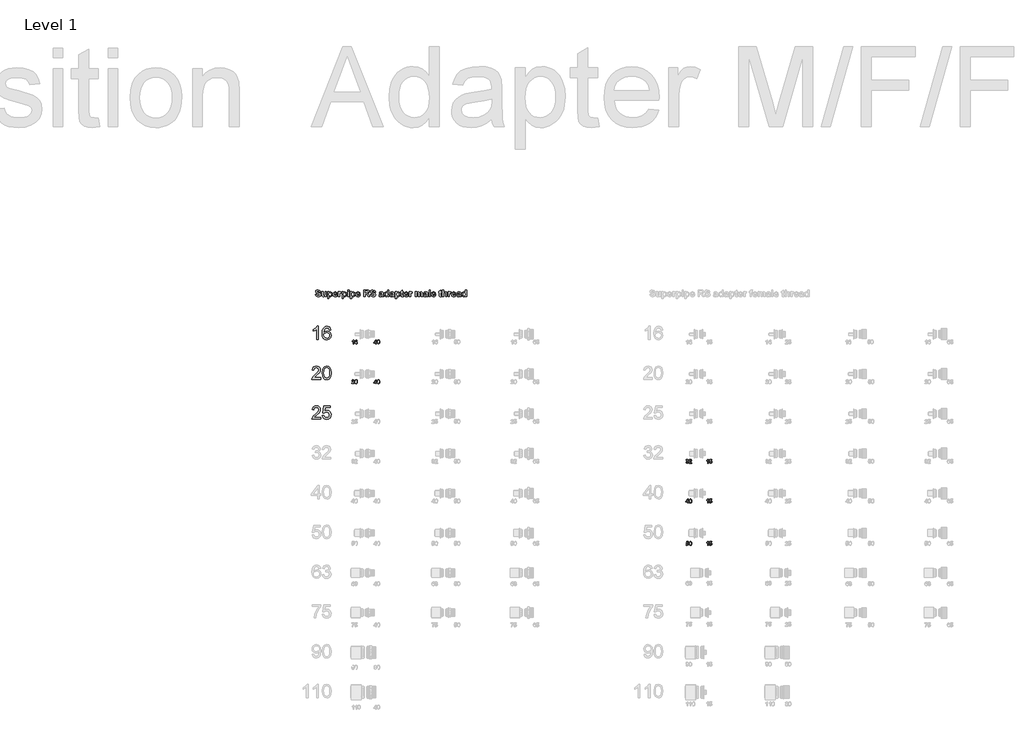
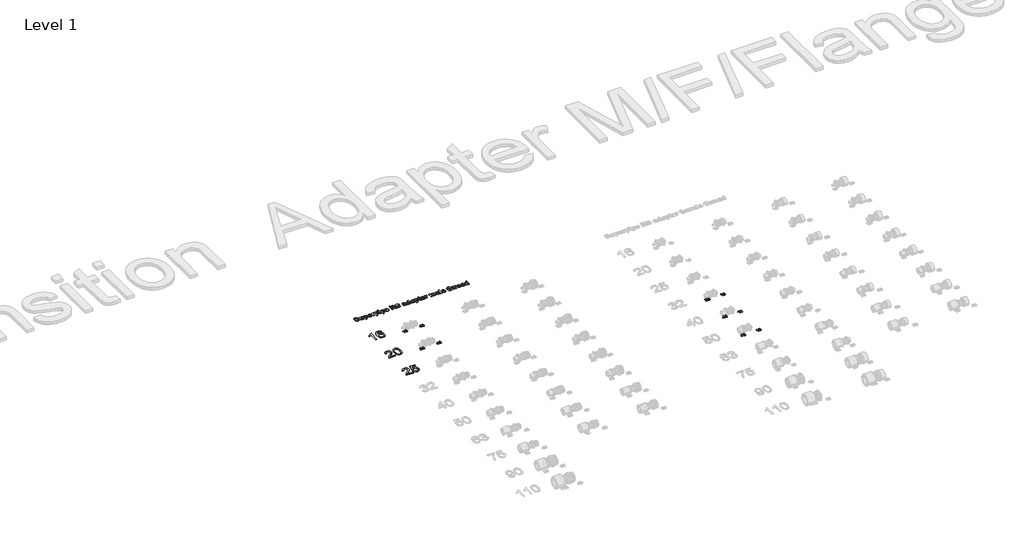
# One storey, part 36 of 58: 14 proxies.
"""IFC4 building model written with IfcOpenShell, lengths in millimetres."""

from ifc_helpers import new_model, si_unit, frame, origin, place, context, project, spatial, polyline, outline, extrude, element, save

model = new_model("IFC4")

# Units and contexts
model_context = context("Model", 3, world=origin())
ifc_project = project(units=[si_unit("LENGTHUNIT", "METRE", prefix="MILLI")], contexts=[model_context])

# Site, building, storey
site = spatial("IfcSite", under=ifc_project)
building = spatial("IfcBuilding", under=site)
storey = spatial("IfcBuildingStorey", under=building, Name="Level 1", Elevation=27.3876384)

# Proxies
placement = place(None, origin())
element("IfcBuildingElementProxy", 1, Name="100mm Arial", ObjectType="100mm Arial", at=placement, inside=storey, context=model_context, shape_type="SweptSolid", body=[
    extrude(outline(polyline([(28831.5703727, 18606.196048), (28819.0133339, 18606.196048), (28819.0133339, 18684.4813365), (28807.1184827, 18676.0077879), (28793.8992564, 18669.6679549), (28793.8992564, 18681.5382806), (28812.3056189, 18693.285979), (28823.4769688, 18706.6523581), (28831.5703727, 18706.6523581), (28831.5703727, 18606.196048)])), frame((0.0, 0.0, 27.3876384), z_axis=(0.0, 0.0, 1.0), x_axis=(1.0, 0.0, 0.0)), (0.0, 0.0, 1.0), 2.0),
    extrude(outline(polyline([(28925.7481635, 18679.9686507), (28913.1911247, 18678.3990209), (28908.4331842, 18688.871395), (28895.85162, 18694.0953193), (28884.5208545, 18691.0541615), (28875.949204, 18679.6375569), (28872.3807487, 18657.2580689), (28883.4539967, 18667.2767219), (28897.1759952, 18670.5508717), (28908.7765407, 18668.3129229), (28918.5131509, 18661.5990764), (28925.1166327, 18651.3413001), (28927.3177933, 18638.4715617), (28923.1729895, 18621.1443197), (28911.7686476, 18608.8815865), (28895.3120597, 18604.6264181), (28881.0658295, 18607.4468468), (28869.7197356, 18615.9081326), (28862.2977163, 18630.8441416), (28859.8237099, 18653.0887396), (28862.5705621, 18678.0985839), (28870.8111188, 18695.1989653), (28882.0621765, 18703.7890099), (28896.6364349, 18706.6523581), (28907.6545007, 18704.8803932), (28916.4775372, 18699.5644983), (28922.6579547, 18691.1216066), (28925.7481635, 18679.9686507)]), holes=[polyline([(28872.3807487, 18638.6677654), (28875.2870164, 18627.7907211), (28883.0125383, 18619.8935209), (28894.3310411, 18617.1834569), (28902.617583, 18618.5875398), (28909.13216, 18622.7997887), (28913.3536059, 18629.4216646), (28914.7607545, 18638.0546288), (28913.372, 18646.3411707), (28909.2057364, 18652.659544), (28902.5807948, 18656.6602607), (28893.8160063, 18657.9938329), (28878.6224799, 18652.659544), (28873.9411815, 18646.4944549), (28872.3807487, 18638.6677654)])]), frame((0.0, 0.0, 27.3876384), z_axis=(0.0, 0.0, 1.0), x_axis=(1.0, 0.0, 0.0)), (0.0, 0.0, 1.0), 2.0),
])
element("IfcBuildingElementProxy", 2, Name="100mm Arial", ObjectType="100mm Arial", at=placement, inside=storey, context=model_context, shape_type="SweptSolid", body=[
    extrude(outline(polyline([(28848.836301, 18318.7530867), (28848.836301, 18306.196048), (28782.9118475, 18306.196048), (28784.2607481, 18314.8535376), (28791.8881681, 18328.1831285), (28807.6089921, 18342.7389928), (28829.2895043, 18363.6592156), (28834.7096324, 18377.8839861), (28829.5960726, 18389.3986925), (28816.2419562, 18394.0953193), (28802.3237541, 18389.5090571), (28797.0385161, 18376.829391), (28784.4814773, 18378.3990209), (28787.5257008, 18390.5452581), (28794.1077228, 18399.4173455), (28803.8841869, 18404.843605), (28816.5117363, 18406.6523581), (28829.2312563, 18404.6412699), (28838.9893263, 18398.6080052), (28845.1973349, 18389.5948963), (28847.2666711, 18378.6442756), (28845.0348537, 18366.7371616), (28837.6159001, 18354.4253775), (28819.6264706, 18337.2207629), (28805.1809709, 18325.1419707), (28799.5155882, 18318.7530867), (28848.836301, 18318.7530867)])), frame((0.0, 0.0, 27.3876384), z_axis=(0.0, 0.0, 1.0), x_axis=(1.0, 0.0, 0.0)), (0.0, 0.0, 1.0), 2.0),
    extrude(outline(polyline([(28861.3933398, 18355.6148627), (28865.0844224, 18384.5181247), (28876.0473059, 18401.1831791), (28894.3555665, 18406.6523581), (28909.0217954, 18403.4149966), (28919.150813, 18394.0830566), (28925.0369249, 18379.220624), (28927.3177933, 18355.6148627), (28923.6634988, 18326.8342279), (28912.7374036, 18310.1323853), (28904.5060439, 18306.0029099), (28894.3555665, 18304.6264181), (28881.3080184, 18307.0176511), (28871.39973, 18314.19135), (28863.8949373, 18331.1813668), (28861.3933398, 18355.6148627)]), holes=[polyline([(28873.9503785, 18355.6393881), (28875.4219065, 18335.8871907), (28879.8364905, 18324.4552577), (28886.4093154, 18319.0014071), (28894.3555665, 18317.1834569), (28902.3018176, 18319.0075385), (28908.8746426, 18324.4797831), (28913.2892265, 18335.9178475), (28914.7607545, 18355.6393881), (28913.3382775, 18374.9470615), (28909.0708463, 18386.4678993), (28902.5102841, 18392.1884643), (28894.2084137, 18394.0953193), (28886.3480018, 18392.4153249), (28880.0326942, 18387.3753416), (28875.4709574, 18375.1371339), (28873.9503785, 18355.6393881)])]), frame((0.0, 0.0, 27.3876384), z_axis=(0.0, 0.0, 1.0), x_axis=(1.0, 0.0, 0.0)), (0.0, 0.0, 1.0), 2.0),
])
element("IfcBuildingElementProxy", 3, Name="100mm Arial", ObjectType="100mm Arial", at=placement, inside=storey, context=model_context, shape_type="SweptSolid", body=[
    extrude(outline(polyline([(28848.836301, 18018.7530867), (28848.836301, 18006.196048), (28782.9118475, 18006.196048), (28784.2607481, 18014.8535376), (28791.8881681, 18028.1831285), (28807.6089921, 18042.7389928), (28829.2895043, 18063.6592156), (28834.7096324, 18077.8839861), (28829.5960726, 18089.3986925), (28816.2419562, 18094.0953193), (28802.3237541, 18089.5090571), (28797.0385161, 18076.829391), (28784.4814773, 18078.3990209), (28787.5257008, 18090.5452581), (28794.1077228, 18099.4173455), (28803.8841869, 18104.843605), (28816.5117363, 18106.6523581), (28829.2312563, 18104.6412699), (28838.9893263, 18098.6080052), (28845.1973349, 18089.5948963), (28847.2666711, 18078.6442756), (28845.0348537, 18066.7371616), (28837.6159001, 18054.4253775), (28819.6264706, 18037.2207629), (28805.1809709, 18025.1419707), (28799.5155882, 18018.7530867), (28848.836301, 18018.7530867)])), frame((0.0, 0.0, 27.3876384), z_axis=(0.0, 0.0, 1.0), x_axis=(1.0, 0.0, 0.0)), (0.0, 0.0, 1.0), 2.0),
    extrude(outline(polyline([(28861.3933398, 18032.8797554), (28873.9503785, 18034.4493852), (28880.2779488, 18021.5122017), (28893.3990733, 18017.1834569), (28902.3999195, 18018.6887074), (28909.1444227, 18023.2044589), (28913.3566716, 18030.2095452), (28914.7607545, 18039.1828002), (28909.500042, 18054.0942837), (28902.8934945, 18058.196168), (28893.5952771, 18059.5634627), (28882.57108, 18057.3806962), (28875.5200084, 18051.7153135), (28862.9629696, 18053.2849434), (28873.9503785, 18105.0827283), (28922.6089038, 18105.0827283), (28922.6089038, 18092.5256895), (28884.1039216, 18092.5256895), (28878.7328445, 18064.8609635), (28887.7030338, 18070.305617), (28897.1024188, 18072.1205015), (28908.8347887, 18069.87029), (28918.5744645, 18063.1196554), (28925.1319611, 18052.8312222), (28927.3177933, 18039.9676151), (28925.3496246, 18027.4105764), (28919.4451186, 18016.6684221), (28908.1388786, 18007.6369191), (28893.3500224, 18004.6264181), (28881.0167785, 18006.5608643), (28871.1912636, 18012.3642028), (28864.4559574, 18021.3619832), (28861.3933398, 18032.8797554)])), frame((0.0, 0.0, 27.3876384), z_axis=(0.0, 0.0, 1.0), x_axis=(1.0, 0.0, 0.0)), (0.0, 0.0, 1.0), 2.0),
])
element("IfcBuildingElementProxy", 4, Name="30mm Arial", ObjectType="30mm Arial", at=placement, inside=storey, context=model_context, shape_type="SweptSolid", body=[
    extrude(outline(polyline([(29101.8418771, 18277.3459656), (29101.8418771, 18273.5788539), (29082.0645411, 18273.5788539), (29082.4692113, 18276.1761008), (29084.7574373, 18280.1749781), (29089.4736845, 18284.5417374), (29095.9778381, 18290.8178042), (29097.6038765, 18295.0852354), (29096.0698086, 18298.5396473), (29092.0635737, 18299.9486353), (29087.8881131, 18298.5727567), (29086.3025417, 18294.7688569), (29082.53543, 18295.2397458), (29085.4233037, 18301.5452432), (29092.1445077, 18303.715747), (29098.8877847, 18301.3024411), (29101.3709882, 18295.3133222), (29100.7014429, 18291.741188), (29098.4757569, 18288.0476528), (29093.078928, 18282.8862684), (29088.7452781, 18279.2626308), (29087.0456633, 18277.3459656), (29101.8418771, 18277.3459656)])), frame((0.0, 0.0, 27.3876384), z_axis=(0.0, 0.0, 1.0), x_axis=(1.0, 0.0, 0.0)), (0.0, 0.0, 1.0), 2.0),
    extrude(outline(polyline([(29105.6089888, 18288.4044983), (29106.7163136, 18297.075477), (29110.0051786, 18302.0749933), (29115.4976568, 18303.715747), (29119.8975255, 18302.7445385), (29122.9362307, 18299.9449565), (29124.7020643, 18295.4862267), (29125.3863248, 18288.4044983), (29124.2900365, 18279.7703079), (29121.0122079, 18274.7597551), (29115.4976568, 18273.107965), (29108.6109058, 18275.9774445), (29105.6089888, 18288.4044983)]), holes=[polyline([(29109.3761004, 18288.411856), (29111.141934, 18279.0566168), (29115.4976568, 18276.8750766), (29119.8533796, 18279.0639745), (29121.6192132, 18288.411856), (29119.9122407, 18297.6604093), (29115.453511, 18299.9486353), (29111.2007951, 18297.932642), (29109.3761004, 18288.411856)])]), frame((0.0, 0.0, 27.3876384), z_axis=(0.0, 0.0, 1.0), x_axis=(1.0, 0.0, 0.0)), (0.0, 0.0, 1.0), 2.0),
])
element("IfcBuildingElementProxy", 5, Name="30mm Arial", ObjectType="30mm Arial", at=placement, inside=storey, context=model_context, shape_type="SweptSolid", body=[
    extrude(outline(polyline([(29263.5285428, 18273.5788539), (29263.5285428, 18280.6421882), (29249.8727632, 18280.6421882), (29249.8727632, 18284.4092999), (29264.4703207, 18303.244858), (29267.2956545, 18303.244858), (29267.2956545, 18284.4092999), (29271.0627661, 18284.4092999), (29271.0627661, 18280.6421882), (29267.2956545, 18280.6421882), (29267.2956545, 18273.5788539), (29263.5285428, 18273.5788539)]), holes=[polyline([(29263.5285428, 18284.4092999), (29263.5285428, 18296.0490862), (29254.5080763, 18284.4092999), (29263.5285428, 18284.4092999)])]), frame((0.0, 0.0, 27.3876384), z_axis=(0.0, 0.0, 1.0), x_axis=(1.0, 0.0, 0.0)), (0.0, 0.0, 1.0), 2.0),
    extrude(outline(polyline([(29274.3589888, 18288.4044983), (29275.4663136, 18297.075477), (29278.7551786, 18302.0749933), (29284.2476568, 18303.715747), (29288.6475255, 18302.7445385), (29291.6862307, 18299.9449565), (29293.4520643, 18295.4862267), (29294.1363248, 18288.4044983), (29293.0400365, 18279.7703079), (29289.7622079, 18274.7597551), (29284.2476568, 18273.107965), (29277.3609058, 18275.9774445), (29274.3589888, 18288.4044983)]), holes=[polyline([(29278.1261004, 18288.411856), (29279.891934, 18279.0566168), (29284.2476568, 18276.8750766), (29288.6033796, 18279.0639745), (29290.3692132, 18288.411856), (29288.6622407, 18297.6604093), (29284.203511, 18299.9486353), (29279.9507951, 18297.932642), (29278.1261004, 18288.411856)])]), frame((0.0, 0.0, 27.3876384), z_axis=(0.0, 0.0, 1.0), x_axis=(1.0, 0.0, 0.0)), (0.0, 0.0, 1.0), 2.0),
])
element("IfcBuildingElementProxy", 6, Name="30mm Arial", ObjectType="30mm Arial", at=placement, inside=storey, context=model_context, shape_type="SweptSolid", body=[
    extrude(outline(polyline([(29096.6620986, 18573.5788539), (29092.894987, 18573.5788539), (29092.894987, 18597.0644405), (29089.3265317, 18594.5223759), (29085.3607637, 18592.620426), (29085.3607637, 18596.1815237), (29090.8826725, 18599.7058332), (29094.2340775, 18603.715747), (29096.6620986, 18603.715747), (29096.6620986, 18573.5788539)])), frame((0.0, 0.0, 27.3876384), z_axis=(0.0, 0.0, 1.0), x_axis=(1.0, 0.0, 0.0)), (0.0, 0.0, 1.0), 2.0),
    extrude(outline(polyline([(29124.9154359, 18595.7106348), (29121.1483242, 18595.2397458), (29119.7209421, 18598.381458), (29115.9464728, 18599.9486353), (29112.5472432, 18599.036288), (29109.975748, 18595.6113066), (29108.9052114, 18588.8974602), (29112.2271859, 18591.9030561), (29116.3437854, 18592.885301), (29122.7449321, 18590.1997625), (29125.3863248, 18583.261508), (29124.1428837, 18578.0633355), (29120.7215811, 18574.3845155), (29115.7846047, 18573.107965), (29108.1069075, 18576.4924793), (29105.1380998, 18587.6466614), (29108.4343225, 18600.2797291), (29116.1819173, 18603.715747), (29122.134248, 18601.589389), (29124.9154359, 18595.7106348)]), holes=[polyline([(29108.9052114, 18583.3203692), (29109.7770918, 18580.0572559), (29112.0947483, 18577.6880958), (29115.4902992, 18576.8750766), (29119.9306348, 18578.5599761), (29121.6192132, 18583.1364282), (29119.9527078, 18587.5179027), (29115.3357887, 18589.1181894), (29110.7777308, 18587.5179027), (29108.9052114, 18583.3203692)])]), frame((0.0, 0.0, 27.3876384), z_axis=(0.0, 0.0, 1.0), x_axis=(1.0, 0.0, 0.0)), (0.0, 0.0, 1.0), 2.0),
])
element("IfcBuildingElementProxy", 7, Name="30mm Arial", ObjectType="30mm Arial", at=placement, inside=storey, context=model_context, shape_type="SweptSolid", body=[
    extrude(outline(polyline([(29263.5285428, 18573.5788539), (29263.5285428, 18580.6421882), (29249.8727632, 18580.6421882), (29249.8727632, 18584.4092999), (29264.4703207, 18603.244858), (29267.2956545, 18603.244858), (29267.2956545, 18584.4092999), (29271.0627661, 18584.4092999), (29271.0627661, 18580.6421882), (29267.2956545, 18580.6421882), (29267.2956545, 18573.5788539), (29263.5285428, 18573.5788539)]), holes=[polyline([(29263.5285428, 18584.4092999), (29263.5285428, 18596.0490862), (29254.5080763, 18584.4092999), (29263.5285428, 18584.4092999)])]), frame((0.0, 0.0, 27.3876384), z_axis=(0.0, 0.0, 1.0), x_axis=(1.0, 0.0, 0.0)), (0.0, 0.0, 1.0), 2.0),
    extrude(outline(polyline([(29274.3589888, 18588.4044983), (29275.4663136, 18597.075477), (29278.7551786, 18602.0749933), (29284.2476568, 18603.715747), (29288.6475255, 18602.7445385), (29291.6862307, 18599.9449565), (29293.4520643, 18595.4862267), (29294.1363248, 18588.4044983), (29293.0400365, 18579.7703079), (29289.7622079, 18574.7597551), (29284.2476568, 18573.107965), (29277.3609058, 18575.9774445), (29274.3589888, 18588.4044983)]), holes=[polyline([(29278.1261004, 18588.411856), (29279.891934, 18579.0566168), (29284.2476568, 18576.8750766), (29288.6033796, 18579.0639745), (29290.3692132, 18588.411856), (29288.6622407, 18597.6604093), (29284.203511, 18599.9486353), (29279.9507951, 18597.932642), (29278.1261004, 18588.411856)])]), frame((0.0, 0.0, 27.3876384), z_axis=(0.0, 0.0, 1.0), x_axis=(1.0, 0.0, 0.0)), (0.0, 0.0, 1.0), 2.0),
])
element("IfcBuildingElementProxy", 8, Name="30mm Arial", ObjectType="30mm Arial", at=placement, inside=storey, context=model_context, shape_type="SweptSolid", body=[
    extrude(outline(polyline([(31602.53543, 17681.5839661), (31606.3025417, 17682.0548551), (31608.3810749, 17678.0890872), (31612.2695876, 17676.8750766), (31616.8460396, 17678.5452609), (31618.5456545, 17682.6802545), (31616.8607549, 17686.5761248), (31612.5786085, 17688.1175504), (31609.9372158, 17687.7055225), (31610.3566012, 17691.4726342), (31615.2347165, 17692.5100614), (31617.1329876, 17695.8357146), (31615.7571089, 17698.7824494), (31612.2107265, 17699.9486353), (31608.6201982, 17698.771413), (31606.7734306, 17695.2397458), (31603.006319, 17695.7106348), (31606.0891701, 17701.6188196), (31612.078289, 17703.715747), (31616.6216316, 17702.6819986), (31619.8001321, 17699.8566648), (31620.9000992, 17696.0564438), (31619.8553144, 17692.5836378), (31616.7651056, 17690.0893979), (31620.8706687, 17687.5142239), (31622.3127661, 17682.6140357), (31619.4285712, 17675.8744376), (31612.1371501, 17673.107965), (31605.5299895, 17675.4697674), (31602.53543, 17681.5839661)])), frame((0.0, 0.0, 27.3876384), z_axis=(0.0, 0.0, 1.0), x_axis=(1.0, 0.0, 0.0)), (0.0, 0.0, 1.0), 2.0),
    extrude(outline(polyline([(31644.9154359, 17677.3459656), (31644.9154359, 17673.5788539), (31625.1380998, 17673.5788539), (31625.54277, 17676.1761008), (31627.830996, 17680.1749781), (31632.5472432, 17684.5417374), (31639.0513969, 17690.8178042), (31640.6774353, 17695.0852354), (31639.1433674, 17698.5396473), (31635.1371324, 17699.9486353), (31630.9616718, 17698.5727567), (31629.3761004, 17694.7688569), (31625.6089888, 17695.2397458), (31628.4968624, 17701.5452432), (31635.2180665, 17703.715747), (31641.9613434, 17701.3024411), (31644.4445469, 17695.3133222), (31643.7750017, 17691.741188), (31641.5493156, 17688.0476528), (31636.1524867, 17682.8862684), (31631.8188368, 17679.2626308), (31630.119222, 17677.3459656), (31644.9154359, 17677.3459656)])), frame((0.0, 0.0, 27.3876384), z_axis=(0.0, 0.0, 1.0), x_axis=(1.0, 0.0, 0.0)), (0.0, 0.0, 1.0), 2.0),
])
element("IfcBuildingElementProxy", 9, Name="30mm Arial", ObjectType="30mm Arial", at=placement, inside=storey, context=model_context, shape_type="SweptSolid", body=[
    extrude(outline(polyline([(31770.4120986, 17673.5788539), (31766.644987, 17673.5788539), (31766.644987, 17697.0644405), (31763.0765317, 17694.5223759), (31759.1107637, 17692.620426), (31759.1107637, 17696.1815237), (31764.6326725, 17699.7058332), (31767.9840775, 17703.715747), (31770.4120986, 17703.715747), (31770.4120986, 17673.5788539)])), frame((0.0, 0.0, 27.3876384), z_axis=(0.0, 0.0, 1.0), x_axis=(1.0, 0.0, 0.0)), (0.0, 0.0, 1.0), 2.0),
    extrude(outline(polyline([(31779.3589888, 17681.5839661), (31783.1261004, 17682.0548551), (31785.0243715, 17678.1737001), (31788.9607088, 17676.8750766), (31793.6843137, 17678.6813772), (31795.3692132, 17683.4748796), (31793.7909994, 17687.9483247), (31789.01957, 17689.5890784), (31785.7123108, 17688.9342484), (31783.5969893, 17687.2346336), (31779.8298777, 17687.7055225), (31783.1261004, 17703.244858), (31797.723658, 17703.244858), (31797.723658, 17699.4777464), (31786.1721633, 17699.4777464), (31784.5608402, 17691.1783286), (31790.0717125, 17693.35619), (31796.5133262, 17690.6559361), (31799.1363248, 17683.7103241), (31796.7745224, 17676.7205662), (31788.9459936, 17673.107965), (31782.2983659, 17675.4293004), (31779.3589888, 17681.5839661)])), frame((0.0, 0.0, 27.3876384), z_axis=(0.0, 0.0, 1.0), x_axis=(1.0, 0.0, 0.0)), (0.0, 0.0, 1.0), 2.0),
])
element("IfcBuildingElementProxy", 10, Name="30mm Arial", ObjectType="30mm Arial", at=placement, inside=storey, context=model_context, shape_type="SweptSolid", body=[
    extrude(outline(polyline([(31614.7785428, 17373.5788539), (31614.7785428, 17380.6421882), (31601.1227632, 17380.6421882), (31601.1227632, 17384.4092999), (31615.7203207, 17403.244858), (31618.5456545, 17403.244858), (31618.5456545, 17384.4092999), (31622.3127661, 17384.4092999), (31622.3127661, 17380.6421882), (31618.5456545, 17380.6421882), (31618.5456545, 17373.5788539), (31614.7785428, 17373.5788539)]), holes=[polyline([(31614.7785428, 17384.4092999), (31614.7785428, 17396.0490862), (31605.7580763, 17384.4092999), (31614.7785428, 17384.4092999)])]), frame((0.0, 0.0, 27.3876384), z_axis=(0.0, 0.0, 1.0), x_axis=(1.0, 0.0, 0.0)), (0.0, 0.0, 1.0), 2.0),
    extrude(outline(polyline([(31625.6089888, 17388.4044983), (31626.7163136, 17397.075477), (31630.0051786, 17402.0749933), (31635.4976568, 17403.715747), (31639.8975255, 17402.7445385), (31642.9362307, 17399.9449565), (31644.7020643, 17395.4862267), (31645.3863248, 17388.4044983), (31644.2900365, 17379.7703079), (31641.0122079, 17374.7597551), (31635.4976568, 17373.107965), (31628.6109058, 17375.9774445), (31625.6089888, 17388.4044983)]), holes=[polyline([(31629.3761004, 17388.411856), (31631.141934, 17379.0566168), (31635.4976568, 17376.8750766), (31639.8533796, 17379.0639745), (31641.6192132, 17388.411856), (31639.9122407, 17397.6604093), (31635.453511, 17399.9486353), (31631.2007951, 17397.932642), (31629.3761004, 17388.411856)])]), frame((0.0, 0.0, 27.3876384), z_axis=(0.0, 0.0, 1.0), x_axis=(1.0, 0.0, 0.0)), (0.0, 0.0, 1.0), 2.0),
])
element("IfcBuildingElementProxy", 11, Name="30mm Arial", ObjectType="30mm Arial", at=placement, inside=storey, context=model_context, shape_type="SweptSolid", body=[
    extrude(outline(polyline([(31770.4120986, 17373.5788539), (31766.644987, 17373.5788539), (31766.644987, 17397.0644405), (31763.0765317, 17394.5223759), (31759.1107637, 17392.620426), (31759.1107637, 17396.1815237), (31764.6326725, 17399.7058332), (31767.9840775, 17403.715747), (31770.4120986, 17403.715747), (31770.4120986, 17373.5788539)])), frame((0.0, 0.0, 27.3876384), z_axis=(0.0, 0.0, 1.0), x_axis=(1.0, 0.0, 0.0)), (0.0, 0.0, 1.0), 2.0),
    extrude(outline(polyline([(31779.3589888, 17381.5839661), (31783.1261004, 17382.0548551), (31785.0243715, 17378.1737001), (31788.9607088, 17376.8750766), (31793.6843137, 17378.6813772), (31795.3692132, 17383.4748796), (31793.7909994, 17387.9483247), (31789.01957, 17389.5890784), (31785.7123108, 17388.9342484), (31783.5969893, 17387.2346336), (31779.8298777, 17387.7055225), (31783.1261004, 17403.244858), (31797.723658, 17403.244858), (31797.723658, 17399.4777464), (31786.1721633, 17399.4777464), (31784.5608402, 17391.1783286), (31790.0717125, 17393.35619), (31796.5133262, 17390.6559361), (31799.1363248, 17383.7103241), (31796.7745224, 17376.7205662), (31788.9459936, 17373.107965), (31782.2983659, 17375.4293004), (31779.3589888, 17381.5839661)])), frame((0.0, 0.0, 27.3876384), z_axis=(0.0, 0.0, 1.0), x_axis=(1.0, 0.0, 0.0)), (0.0, 0.0, 1.0), 2.0),
])
element("IfcBuildingElementProxy", 12, Name="30mm Arial", ObjectType="30mm Arial", at=placement, inside=storey, context=model_context, shape_type="SweptSolid", body=[
    extrude(outline(polyline([(31602.53543, 17061.5839661), (31606.3025417, 17062.0548551), (31608.2008128, 17058.1737001), (31612.1371501, 17056.8750766), (31616.8607549, 17058.6813772), (31618.5456545, 17063.4748796), (31616.9674407, 17067.9483247), (31612.1960112, 17069.5890784), (31608.8887521, 17068.9342484), (31606.7734306, 17067.2346336), (31603.006319, 17067.7055225), (31606.3025417, 17083.244858), (31620.9000992, 17083.244858), (31620.9000992, 17079.4777464), (31609.3486046, 17079.4777464), (31607.7372814, 17071.1783286), (31613.2481537, 17073.35619), (31619.6897675, 17070.6559361), (31622.3127661, 17063.7103241), (31619.9509637, 17056.7205662), (31612.1224348, 17053.107965), (31605.4748072, 17055.4293004), (31602.53543, 17061.5839661)])), frame((0.0, 0.0, 27.3876384), z_axis=(0.0, 0.0, 1.0), x_axis=(1.0, 0.0, 0.0)), (0.0, 0.0, 1.0), 2.0),
    extrude(outline(polyline([(31625.6089888, 17068.4044983), (31626.7163136, 17077.075477), (31630.0051786, 17082.0749933), (31635.4976568, 17083.715747), (31639.8975255, 17082.7445385), (31642.9362307, 17079.9449565), (31644.7020643, 17075.4862267), (31645.3863248, 17068.4044983), (31644.2900365, 17059.7703079), (31641.0122079, 17054.7597551), (31635.4976568, 17053.107965), (31628.6109058, 17055.9774445), (31625.6089888, 17068.4044983)]), holes=[polyline([(31629.3761004, 17068.411856), (31631.141934, 17059.0566168), (31635.4976568, 17056.8750766), (31639.8533796, 17059.0639745), (31641.6192132, 17068.411856), (31639.9122407, 17077.6604093), (31635.453511, 17079.9486353), (31631.2007951, 17077.932642), (31629.3761004, 17068.411856)])]), frame((0.0, 0.0, 27.3876384), z_axis=(0.0, 0.0, 1.0), x_axis=(1.0, 0.0, 0.0)), (0.0, 0.0, 1.0), 2.0),
])
element("IfcBuildingElementProxy", 13, Name="30mm Arial", ObjectType="30mm Arial", at=placement, inside=storey, context=model_context, shape_type="SweptSolid", body=[
    extrude(outline(polyline([(31770.4120986, 17053.5788539), (31766.644987, 17053.5788539), (31766.644987, 17077.0644405), (31763.0765317, 17074.5223759), (31759.1107637, 17072.620426), (31759.1107637, 17076.1815237), (31764.6326725, 17079.7058332), (31767.9840775, 17083.715747), (31770.4120986, 17083.715747), (31770.4120986, 17053.5788539)])), frame((0.0, 0.0, 27.3876384), z_axis=(0.0, 0.0, 1.0), x_axis=(1.0, 0.0, 0.0)), (0.0, 0.0, 1.0), 2.0),
    extrude(outline(polyline([(31779.3589888, 17061.5839661), (31783.1261004, 17062.0548551), (31785.0243715, 17058.1737001), (31788.9607088, 17056.8750766), (31793.6843137, 17058.6813772), (31795.3692132, 17063.4748796), (31793.7909994, 17067.9483247), (31789.01957, 17069.5890784), (31785.7123108, 17068.9342484), (31783.5969893, 17067.2346336), (31779.8298777, 17067.7055225), (31783.1261004, 17083.244858), (31797.723658, 17083.244858), (31797.723658, 17079.4777464), (31786.1721633, 17079.4777464), (31784.5608402, 17071.1783286), (31790.0717125, 17073.35619), (31796.5133262, 17070.6559361), (31799.1363248, 17063.7103241), (31796.7745224, 17056.7205662), (31788.9459936, 17053.107965), (31782.2983659, 17055.4293004), (31779.3589888, 17061.5839661)])), frame((0.0, 0.0, 27.3876384), z_axis=(0.0, 0.0, 1.0), x_axis=(1.0, 0.0, 0.0)), (0.0, 0.0, 1.0), 2.0),
])
element("IfcBuildingElementProxy", 14, Name="50mm Arial", ObjectType="50mm Arial", at=placement, inside=storey, context=model_context, shape_type="SweptSolid", body=[
    extrude(outline(polyline([(28808.9770616, 18946.5014095), (28818.6938178, 18947.3111392), (28822.4894257, 18939.9476599), (28830.1945097, 18937.594383), (28837.9502018, 18939.6756413), (28840.5565192, 18944.5403454), (28839.4747709, 18947.5831577), (28835.6854891, 18949.7656323), (28827.2592396, 18951.9291288), (28815.3916389, 18956.9013751), (28810.5965209, 18967.1368644), (28812.7979735, 18974.3991274), (28819.1492907, 18979.5485021), (28829.1570435, 18981.3197858), (28843.5740275, 18976.9042286), (28848.653816, 18965.1251922), (28838.9370598, 18965.1251922), (28836.0081157, 18970.7110618), (28829.2709117, 18972.4127593), (28822.0086487, 18970.6035196), (28820.3132771, 18967.4911211), (28821.8568243, 18964.4419828), (28831.3774741, 18961.1208258), (28842.5555393, 18957.5276504), (28848.2236471, 18952.3846017), (28850.2732754, 18944.325261), (28847.8504124, 18936.177356), (28840.9930141, 18930.5345523), (28829.9414691, 18928.6873565), (28815.1385984, 18933.2357599), (28808.9770616, 18946.5014095)])), frame((0.0, 0.0, 27.3876384), z_axis=(0.0, 0.0, 1.0), x_axis=(1.0, 0.0, 0.0)), (0.0, 0.0, 1.0), 2.0),
    extrude(outline(polyline([(28881.852733, 18929.4970861), (28881.852733, 18934.9627615), (28876.7729444, 18930.3637499), (28870.1243046, 18928.6873565), (28863.7350314, 18930.3321199), (28859.6357748, 18934.9564355), (28858.3705722, 18943.1992306), (28858.3705722, 18966.7446515), (28868.0873284, 18966.7446515), (28868.0873284, 18949.5252438), (28868.6123875, 18939.8401176), (28870.5354955, 18937.0187158), (28874.0843889, 18935.9749236), (28878.480968, 18937.3666465), (28881.1378935, 18940.8269757), (28881.852733, 18950.9422707), (28881.852733, 18966.7446515), (28891.5694892, 18966.7446515), (28891.5694892, 18929.4970861), (28881.852733, 18929.4970861)])), frame((0.0, 0.0, 27.3876384), z_axis=(0.0, 0.0, 1.0), x_axis=(1.0, 0.0, 0.0)), (0.0, 0.0, 1.0), 2.0),
    extrude(outline(polyline([(28901.2862454, 18966.7446515), (28911.0030016, 18966.7446515), (28911.0030016, 18961.3801924), (28915.6209912, 18965.8463577), (28922.0861766, 18967.5543812), (28932.5936844, 18962.4745927), (28936.9143514, 18948.3359533), (28932.4545121, 18933.8493832), (28921.6433557, 18928.6873565), (28916.1650283, 18929.889299), (28911.0030016, 18934.0138595), (28911.0030016, 18915.7316815), (28901.2862454, 18915.7316815), (28901.2862454, 18966.7446515)]), holes=[polyline([(28911.0030016, 18948.7661222), (28913.4385166, 18939.0999741), (28919.378643, 18935.9749236), (28924.9645126, 18938.8406076), (28927.1975952, 18948.2473891), (28924.9012525, 18957.3062399), (28919.2015146, 18960.2668141), (28913.3373004, 18957.363174), (28911.0030016, 18948.7661222)])]), frame((0.0, 0.0, 27.3876384), z_axis=(0.0, 0.0, 1.0), x_axis=(1.0, 0.0, 0.0)), (0.0, 0.0, 1.0), 2.0),
    extrude(outline(polyline([(28965.2548903, 18940.8333017), (28974.9716465, 18939.2138423), (28969.1770185, 18931.375912), (28959.2704819, 18928.6873565), (28951.0814579, 18930.2720228), (28945.3406009, 18935.0260216), (28941.7727295, 18947.8425243), (28946.5045873, 18962.3164423), (28958.4734042, 18967.5543812), (28971.2899068, 18962.17727), (28975.7813762, 18945.6916798), (28951.4894857, 18945.6916798), (28953.7795025, 18938.5306329), (28959.2325258, 18935.9749236), (28962.9648735, 18937.126258), (28965.2548903, 18940.8333017)]), holes=[polyline([(28966.06462, 18951.3597876), (28963.9011235, 18957.9957754), (28958.8909211, 18960.2668141), (28953.6782862, 18957.8755811), (28951.653962, 18951.3597876), (28966.06462, 18951.3597876)])]), frame((0.0, 0.0, 27.3876384), z_axis=(0.0, 0.0, 1.0), x_axis=(1.0, 0.0, 0.0)), (0.0, 0.0, 1.0), 2.0),
    extrude(outline(polyline([(28992.7856995, 18929.4970861), (28983.0689433, 18929.4970861), (28983.0689433, 18966.7446515), (28992.7856995, 18966.7446515), (28992.7856995, 18961.5573208), (28996.6698716, 18966.3967208), (29000.5919997, 18967.5543812), (29006.5511041, 18965.504753), (29003.7170502, 18956.2561217), (28999.2129289, 18957.837625), (28995.7905557, 18956.7305727), (28993.5891032, 18952.7388584), (28992.7856995, 18940.6435213), (28992.7856995, 18929.4970861)])), frame((0.0, 0.0, 27.3876384), z_axis=(0.0, 0.0, 1.0), x_axis=(1.0, 0.0, 0.0)), (0.0, 0.0, 1.0), 2.0),
    extrude(outline(polyline([(29010.5997525, 18966.7446515), (29020.3165087, 18966.7446515), (29020.3165087, 18961.3801924), (29024.9344983, 18965.8463577), (29031.3996837, 18967.5543812), (29041.9071916, 18962.4745927), (29046.2278586, 18948.3359533), (29041.7680193, 18933.8493832), (29030.9568628, 18928.6873565), (29025.4785354, 18929.889299), (29020.3165087, 18934.0138595), (29020.3165087, 18915.7316815), (29010.5997525, 18915.7316815), (29010.5997525, 18966.7446515)]), holes=[polyline([(29020.3165087, 18948.7661222), (29022.7520238, 18939.0999741), (29028.6921501, 18935.9749236), (29034.2780197, 18938.8406076), (29036.5111024, 18948.2473891), (29034.2147596, 18957.3062399), (29028.5150217, 18960.2668141), (29022.6508076, 18957.363174), (29020.3165087, 18948.7661222)])]), frame((0.0, 0.0, 27.3876384), z_axis=(0.0, 0.0, 1.0), x_axis=(1.0, 0.0, 0.0)), (0.0, 0.0, 1.0), 2.0),
    extrude(outline(polyline([(29053.5154257, 18929.4970861), (29053.5154257, 18966.7446515), (29063.2321819, 18966.7446515), (29063.2321819, 18929.4970861), (29053.5154257, 18929.4970861)])), frame((0.0, 0.0, 27.3876384), z_axis=(0.0, 0.0, 1.0), x_axis=(1.0, 0.0, 0.0)), (0.0, 0.0, 1.0), 2.0),
    extrude(outline(polyline([(29053.5154257, 18971.6030296), (29053.5154257, 18980.5100561), (29063.2321819, 18980.5100561), (29063.2321819, 18971.6030296), (29053.5154257, 18971.6030296)])), frame((0.0, 0.0, 27.3876384), z_axis=(0.0, 0.0, 1.0), x_axis=(1.0, 0.0, 0.0)), (0.0, 0.0, 1.0), 2.0),
    extrude(outline(polyline([(29072.9489381, 18966.7446515), (29082.6656943, 18966.7446515), (29082.6656943, 18961.3801924), (29087.2836839, 18965.8463577), (29093.7488693, 18967.5543812), (29104.2563771, 18962.4745927), (29108.5770441, 18948.3359533), (29104.1172048, 18933.8493832), (29093.3060484, 18928.6873565), (29087.827721, 18929.889299), (29082.6656943, 18934.0138595), (29082.6656943, 18915.7316815), (29072.9489381, 18915.7316815), (29072.9489381, 18966.7446515)]), holes=[polyline([(29082.6656943, 18948.7661222), (29085.1012093, 18939.0999741), (29091.0413357, 18935.9749236), (29096.6272053, 18938.8406076), (29098.8602879, 18948.2473891), (29096.5639451, 18957.3062399), (29090.8642073, 18960.2668141), (29084.9999931, 18957.363174), (29082.6656943, 18948.7661222)])]), frame((0.0, 0.0, 27.3876384), z_axis=(0.0, 0.0, 1.0), x_axis=(1.0, 0.0, 0.0)), (0.0, 0.0, 1.0), 2.0),
    extrude(outline(polyline([(29136.917583, 18940.8333017), (29146.6343392, 18939.2138423), (29140.8397111, 18931.375912), (29130.9331746, 18928.6873565), (29122.7441505, 18930.2720228), (29117.0032936, 18935.0260216), (29113.4354222, 18947.8425243), (29118.16728, 18962.3164423), (29130.1360969, 18967.5543812), (29142.9525995, 18962.17727), (29147.4440689, 18945.6916798), (29123.1521784, 18945.6916798), (29125.4421951, 18938.5306329), (29130.8952185, 18935.9749236), (29134.6275662, 18937.126258), (29136.917583, 18940.8333017)]), holes=[polyline([(29137.7273127, 18951.3597876), (29135.5638162, 18957.9957754), (29130.5536138, 18960.2668141), (29125.3409789, 18957.8755811), (29123.3166547, 18951.3597876), (29137.7273127, 18951.3597876)])]), frame((0.0, 0.0, 27.3876384), z_axis=(0.0, 0.0, 1.0), x_axis=(1.0, 0.0, 0.0)), (0.0, 0.0, 1.0), 2.0),
    extrude(outline(polyline([(29174.1651484, 18929.4970861), (29174.1651484, 18980.5100561), (29195.622985, 18980.5100561), (29207.3893694, 18979.1309853), (29213.2599096, 18974.2219991), (29215.4613622, 18966.1373543), (29212.2793776, 18956.6103785), (29202.7587278, 18951.8785206), (29207.8574944, 18947.6274398), (29213.2725616, 18939.3909707), (29219.5100106, 18929.4970861), (29208.161143, 18929.4970861), (29200.7723597, 18941.1496024), (29194.9714056, 18948.0639347), (29191.6565747, 18950.0186728), (29186.1086612, 18950.5500579), (29183.8819046, 18950.5500579), (29183.8819046, 18929.4970861), (29174.1651484, 18929.4970861)]), holes=[polyline([(29183.8819046, 18959.4570844), (29191.8906372, 18959.4570844), (29201.6137194, 18960.0454036), (29204.6502057, 18962.0697278), (29205.744606, 18965.6565773), (29204.302275, 18969.5597274), (29200.2283225, 18971.4385533), (29192.3334581, 18971.6030296), (29183.8819046, 18971.6030296), (29183.8819046, 18959.4570844)])]), frame((0.0, 0.0, 27.3876384), z_axis=(0.0, 0.0, 1.0), x_axis=(1.0, 0.0, 0.0)), (0.0, 0.0, 1.0), 2.0),
    extrude(outline(polyline([(29222.7489293, 18946.5014095), (29232.4656855, 18947.3111392), (29236.2612934, 18939.9476599), (29243.9663774, 18937.594383), (29251.7220695, 18939.6756413), (29254.328387, 18944.5403454), (29253.2466387, 18947.5831577), (29249.4573568, 18949.7656323), (29241.0311073, 18951.9291288), (29229.1635067, 18956.9013751), (29224.3683887, 18967.1368644), (29226.5698413, 18974.3991274), (29232.9211585, 18979.5485021), (29242.9289113, 18981.3197858), (29257.3458952, 18976.9042286), (29262.4256838, 18965.1251922), (29252.7089276, 18965.1251922), (29249.7799835, 18970.7110618), (29243.0427795, 18972.4127593), (29235.7805164, 18970.6035196), (29234.0851449, 18967.4911211), (29235.6286921, 18964.4419828), (29245.1493419, 18961.1208258), (29256.3274071, 18957.5276504), (29261.9955149, 18952.3846017), (29264.0451431, 18944.325261), (29261.6222801, 18936.177356), (29254.7648819, 18930.5345523), (29243.7133369, 18928.6873565), (29228.9104661, 18933.2357599), (29222.7489293, 18946.5014095)])), frame((0.0, 0.0, 27.3876384), z_axis=(0.0, 0.0, 1.0), x_axis=(1.0, 0.0, 0.0)), (0.0, 0.0, 1.0), 2.0),
    extrude(outline(polyline([(29299.6732492, 18955.408436), (29290.7662227, 18957.0278953), (29295.6562308, 18964.9733679), (29305.9613062, 18967.5543812), (29315.2099375, 18965.991856), (29319.4863223, 18962.0317717), (29320.7262209, 18953.2196354), (29320.7262209, 18941.7315956), (29321.238628, 18934.4946365), (29323.15541, 18929.4970861), (29313.4386538, 18929.4970861), (29312.5277079, 18932.5841806), (29306.9861204, 18929.9715371), (29301.0776241, 18928.6873565), (29292.3413999, 18931.8060809), (29289.1467633, 18939.6819673), (29290.5701163, 18945.299467), (29294.5618306, 18949.0824228), (29301.9632659, 18951.3724396), (29311.0094647, 18953.7889766), (29309.8011962, 18959.0142635), (29305.2527928, 18960.2668141), (29301.7228774, 18959.1913918), (29299.6732492, 18955.408436)]), holes=[polyline([(29311.0094647, 18946.5014095), (29305.5311373, 18945.1539687), (29300.6221511, 18943.6167475), (29298.8635195, 18940.517001), (29300.2742204, 18937.3223644), (29303.8610699, 18935.9749236), (29308.5043635, 18937.5437749), (29310.655208, 18940.4537409), (29311.0094647, 18944.7427778), (29311.0094647, 18946.5014095)])]), frame((0.0, 0.0, 27.3876384), z_axis=(0.0, 0.0, 1.0), x_axis=(1.0, 0.0, 0.0)), (0.0, 0.0, 1.0), 2.0),
    extrude(outline(polyline([(29363.6418941, 18929.4970861), (29353.9251379, 18929.4970861), (29353.9251379, 18934.8615453), (29348.7947412, 18930.2119256), (29342.8419629, 18928.6873565), (29332.3724111, 18933.8493832), (29328.0137881, 18948.2600411), (29332.3660851, 18962.632743), (29343.373348, 18967.5543812), (29353.9251379, 18962.4556146), (29353.9251379, 18980.5100561), (29363.6418941, 18980.5100561), (29363.6418941, 18929.4970861)]), holes=[polyline([(29337.7305443, 18948.8293823), (29339.3500036, 18939.9476599), (29345.8911012, 18935.9749236), (29351.584513, 18938.9544758), (29353.9251379, 18947.8551763), (29351.6540992, 18957.363174), (29345.8278411, 18960.2668141), (29340.0585171, 18957.3948041), (29337.7305443, 18948.8293823)])]), frame((0.0, 0.0, 27.3876384), z_axis=(0.0, 0.0, 1.0), x_axis=(1.0, 0.0, 0.0)), (0.0, 0.0, 1.0), 2.0),
    extrude(outline(polyline([(29381.4559471, 18955.408436), (29372.5489206, 18957.0278953), (29377.4389288, 18964.9733679), (29387.7440042, 18967.5543812), (29396.9926354, 18965.991856), (29401.2690203, 18962.0317717), (29402.5089189, 18953.2196354), (29402.5089189, 18941.7315956), (29403.0213259, 18934.4946365), (29404.9381079, 18929.4970861), (29395.2213517, 18929.4970861), (29394.3104058, 18932.5841806), (29388.7688183, 18929.9715371), (29382.860322, 18928.6873565), (29374.1240979, 18931.8060809), (29370.9294612, 18939.6819673), (29372.3528142, 18945.299467), (29376.3445285, 18949.0824228), (29383.7459639, 18951.3724396), (29392.7921627, 18953.7889766), (29391.5838942, 18959.0142635), (29387.0354907, 18960.2668141), (29383.5055754, 18959.1913918), (29381.4559471, 18955.408436)]), holes=[polyline([(29392.7921627, 18946.5014095), (29387.3138353, 18945.1539687), (29382.4048491, 18943.6167475), (29380.6462174, 18940.517001), (29382.0569184, 18937.3223644), (29385.6437678, 18935.9749236), (29390.2870615, 18937.5437749), (29392.4379059, 18940.4537409), (29392.7921627, 18944.7427778), (29392.7921627, 18946.5014095)])]), frame((0.0, 0.0, 27.3876384), z_axis=(0.0, 0.0, 1.0), x_axis=(1.0, 0.0, 0.0)), (0.0, 0.0, 1.0), 2.0),
    extrude(outline(polyline([(29412.225675, 18966.7446515), (29421.9424312, 18966.7446515), (29421.9424312, 18961.3801924), (29426.5604208, 18965.8463577), (29433.0256063, 18967.5543812), (29443.5331141, 18962.4745927), (29447.8537811, 18948.3359533), (29443.3939418, 18933.8493832), (29432.5827853, 18928.6873565), (29427.104458, 18929.889299), (29421.9424312, 18934.0138595), (29421.9424312, 18915.7316815), (29412.225675, 18915.7316815), (29412.225675, 18966.7446515)]), holes=[polyline([(29421.9424312, 18948.7661222), (29424.3779463, 18939.0999741), (29430.3180726, 18935.9749236), (29435.9039422, 18938.8406076), (29438.1370249, 18948.2473891), (29435.8406821, 18957.3062399), (29430.1409443, 18960.2668141), (29424.2767301, 18957.363174), (29421.9424312, 18948.7661222)])]), frame((0.0, 0.0, 27.3876384), z_axis=(0.0, 0.0, 1.0), x_axis=(1.0, 0.0, 0.0)), (0.0, 0.0, 1.0), 2.0),
    extrude(outline(polyline([(29472.9554012, 18966.7446515), (29472.9554012, 18959.4570844), (29465.6678341, 18959.4570844), (29465.6678341, 18943.4775752), (29465.8892445, 18937.8284455), (29466.8950806, 18936.4999827), (29468.8055366, 18935.9749236), (29473.3602661, 18936.9111735), (29473.7651309, 18930.0031672), (29465.8070064, 18928.6873565), (29460.8980202, 18929.5983024), (29457.6907315, 18931.9515792), (29456.2673786, 18935.8610554), (29455.9510779, 18942.9335381), (29455.9510779, 18959.4570844), (29451.0926998, 18959.4570844), (29451.0926998, 18966.7446515), (29455.9510779, 18966.7446515), (29455.9510779, 18974.0322187), (29465.6678341, 18979.7003265), (29465.6678341, 18966.7446515), (29472.9554012, 18966.7446515)])), frame((0.0, 0.0, 27.3876384), z_axis=(0.0, 0.0, 1.0), x_axis=(1.0, 0.0, 0.0)), (0.0, 0.0, 1.0), 2.0),
    extrude(outline(polyline([(29499.6764808, 18940.8333017), (29509.3932369, 18939.2138423), (29503.5986089, 18931.375912), (29493.6920723, 18928.6873565), (29485.5030483, 18930.2720228), (29479.7621914, 18935.0260216), (29476.19432, 18947.8425243), (29480.9261778, 18962.3164423), (29492.8949947, 18967.5543812), (29505.7114973, 18962.17727), (29510.2029666, 18945.6916798), (29485.9110762, 18945.6916798), (29488.2010929, 18938.5306329), (29493.6541162, 18935.9749236), (29497.386464, 18937.126258), (29499.6764808, 18940.8333017)]), holes=[polyline([(29500.4862104, 18951.3597876), (29498.3227139, 18957.9957754), (29493.3125115, 18960.2668141), (29488.0998767, 18957.8755811), (29486.0755525, 18951.3597876), (29500.4862104, 18951.3597876)])]), frame((0.0, 0.0, 27.3876384), z_axis=(0.0, 0.0, 1.0), x_axis=(1.0, 0.0, 0.0)), (0.0, 0.0, 1.0), 2.0),
    extrude(outline(polyline([(29527.20729, 18929.4970861), (29517.4905338, 18929.4970861), (29517.4905338, 18966.7446515), (29527.20729, 18966.7446515), (29527.20729, 18961.5573208), (29531.091462, 18966.3967208), (29535.0135902, 18967.5543812), (29540.9726946, 18965.504753), (29538.1386407, 18956.2561217), (29533.6345193, 18957.837625), (29530.2121462, 18956.7305727), (29528.0106936, 18952.7388584), (29527.20729, 18940.6435213), (29527.20729, 18929.4970861)])), frame((0.0, 0.0, 27.3876384), z_axis=(0.0, 0.0, 1.0), x_axis=(1.0, 0.0, 0.0)), (0.0, 0.0, 1.0), 2.0),
    extrude(outline(polyline([(29563.6451257, 18966.7446515), (29573.3618819, 18966.7446515), (29573.3618819, 18961.7597532), (29584.2299724, 18967.5543812), (29590.0435785, 18966.1310283), (29594.0859009, 18961.8230133), (29599.2542537, 18966.1310283), (29605.181728, 18967.5543812), (29611.950562, 18965.8906398), (29616.1004267, 18961.0006316), (29617.0872847, 18953.2955476), (29617.0872847, 18929.4970861), (29607.3705285, 18929.4970861), (29607.3705285, 18950.9422707), (29606.3836705, 18958.1412737), (29602.309718, 18960.2668141), (29598.5457402, 18958.9952854), (29596.0026829, 18955.2692637), (29595.2245833, 18947.5135716), (29595.2245833, 18929.4970861), (29585.5078271, 18929.4970861), (29585.5078271, 18950.0566289), (29585.001746, 18957.1227855), (29583.4392208, 18959.4887145), (29580.5608848, 18960.2668141), (29576.6261046, 18959.0332415), (29574.1210034, 18955.4653701), (29573.3618819, 18947.728656), (29573.3618819, 18929.4970861), (29563.6451257, 18929.4970861), (29563.6451257, 18966.7446515)])), frame((0.0, 0.0, 27.3876384), z_axis=(0.0, 0.0, 1.0), x_axis=(1.0, 0.0, 0.0)), (0.0, 0.0, 1.0), 2.0),
    extrude(outline(polyline([(29634.9013377, 18955.408436), (29625.9943112, 18957.0278953), (29630.8843194, 18964.9733679), (29641.1893948, 18967.5543812), (29650.438026, 18965.991856), (29654.7144109, 18962.0317717), (29655.9543095, 18953.2196354), (29655.9543095, 18941.7315956), (29656.4667165, 18934.4946365), (29658.3834985, 18929.4970861), (29648.6667423, 18929.4970861), (29647.7557964, 18932.5841806), (29642.2142089, 18929.9715371), (29636.3057127, 18928.6873565), (29627.5694885, 18931.8060809), (29624.3748519, 18939.6819673), (29625.7982048, 18945.299467), (29629.7899191, 18949.0824228), (29637.1913545, 18951.3724396), (29646.2375533, 18953.7889766), (29645.0292848, 18959.0142635), (29640.4808813, 18960.2668141), (29636.950966, 18959.1913918), (29634.9013377, 18955.408436)]), holes=[polyline([(29646.2375533, 18946.5014095), (29640.7592259, 18945.1539687), (29635.8502397, 18943.6167475), (29634.0916081, 18940.517001), (29635.502309, 18937.3223644), (29639.0891584, 18935.9749236), (29643.7324521, 18937.5437749), (29645.8832966, 18940.4537409), (29646.2375533, 18944.7427778), (29646.2375533, 18946.5014095)])]), frame((0.0, 0.0, 27.3876384), z_axis=(0.0, 0.0, 1.0), x_axis=(1.0, 0.0, 0.0)), (0.0, 0.0, 1.0), 2.0),
    extrude(outline(polyline([(29665.6710657, 18929.4970861), (29665.6710657, 18980.5100561), (29675.3878219, 18980.5100561), (29675.3878219, 18929.4970861), (29665.6710657, 18929.4970861)])), frame((0.0, 0.0, 27.3876384), z_axis=(0.0, 0.0, 1.0), x_axis=(1.0, 0.0, 0.0)), (0.0, 0.0, 1.0), 2.0),
    extrude(outline(polyline([(29706.1575498, 18940.8333017), (29715.874306, 18939.2138423), (29710.0796779, 18931.375912), (29700.1731414, 18928.6873565), (29691.9841173, 18930.2720228), (29686.2432604, 18935.0260216), (29682.675389, 18947.8425243), (29687.4072468, 18962.3164423), (29699.3760637, 18967.5543812), (29712.1925663, 18962.17727), (29716.6840357, 18945.6916798), (29692.3921452, 18945.6916798), (29694.6821619, 18938.5306329), (29700.1351853, 18935.9749236), (29703.867533, 18937.126258), (29706.1575498, 18940.8333017)]), holes=[polyline([(29706.9672795, 18951.3597876), (29704.803783, 18957.9957754), (29699.7935806, 18960.2668141), (29694.5809457, 18957.8755811), (29692.5566215, 18951.3597876), (29706.9672795, 18951.3597876)])]), frame((0.0, 0.0, 27.3876384), z_axis=(0.0, 0.0, 1.0), x_axis=(1.0, 0.0, 0.0)), (0.0, 0.0, 1.0), 2.0),
    extrude(outline(polyline([(29761.2191682, 18966.7446515), (29761.2191682, 18959.4570844), (29753.9316011, 18959.4570844), (29753.9316011, 18943.4775752), (29754.1530115, 18937.8284455), (29755.1588476, 18936.4999827), (29757.0693036, 18935.9749236), (29761.624033, 18936.9111735), (29762.0288979, 18930.0031672), (29754.0707734, 18928.6873565), (29749.1617872, 18929.5983024), (29745.9544985, 18931.9515792), (29744.5311455, 18935.8610554), (29744.2148449, 18942.9335381), (29744.2148449, 18959.4570844), (29739.3564668, 18959.4570844), (29739.3564668, 18966.7446515), (29744.2148449, 18966.7446515), (29744.2148449, 18974.0322187), (29753.9316011, 18979.7003265), (29753.9316011, 18966.7446515), (29761.2191682, 18966.7446515)])), frame((0.0, 0.0, 27.3876384), z_axis=(0.0, 0.0, 1.0), x_axis=(1.0, 0.0, 0.0)), (0.0, 0.0, 1.0), 2.0),
    extrude(outline(polyline([(29776.6040322, 18980.5100561), (29776.6040322, 18962.0380978), (29787.7251633, 18967.5543812), (29793.7222237, 18966.2955046), (29797.7455681, 18963.0692379), (29799.5927639, 18958.7232669), (29800.086193, 18951.3344835), (29800.086193, 18929.4970861), (29790.3694368, 18929.4970861), (29790.3694368, 18949.3101593), (29789.8253996, 18956.8064849), (29787.9022916, 18959.3305641), (29784.4609405, 18960.2668141), (29780.2098597, 18959.0648716), (29777.470696, 18955.4463921), (29776.6040322, 18948.2853452), (29776.6040322, 18929.4970861), (29766.887276, 18929.4970861), (29766.887276, 18980.5100561), (29776.6040322, 18980.5100561)])), frame((0.0, 0.0, 27.3876384), z_axis=(0.0, 0.0, 1.0), x_axis=(1.0, 0.0, 0.0)), (0.0, 0.0, 1.0), 2.0),
    extrude(outline(polyline([(29819.5197053, 18929.4970861), (29809.8029492, 18929.4970861), (29809.8029492, 18966.7446515), (29819.5197053, 18966.7446515), (29819.5197053, 18961.5573208), (29823.4038774, 18966.3967208), (29827.3260056, 18967.5543812), (29833.2851099, 18965.504753), (29830.4510561, 18956.2561217), (29825.9469347, 18957.837625), (29822.5245616, 18956.7305727), (29820.323109, 18952.7388584), (29819.5197053, 18940.6435213), (29819.5197053, 18929.4970861)])), frame((0.0, 0.0, 27.3876384), z_axis=(0.0, 0.0, 1.0), x_axis=(1.0, 0.0, 0.0)), (0.0, 0.0, 1.0), 2.0),
    extrude(outline(polyline([(29858.3867301, 18940.8333017), (29868.1034863, 18939.2138423), (29862.3088583, 18931.375912), (29852.4023217, 18928.6873565), (29844.2132977, 18930.2720228), (29838.4724407, 18935.0260216), (29834.9045693, 18947.8425243), (29839.6364271, 18962.3164423), (29851.605244, 18967.5543812), (29864.4217466, 18962.17727), (29868.913216, 18945.6916798), (29844.6213255, 18945.6916798), (29846.9113423, 18938.5306329), (29852.3643656, 18935.9749236), (29856.0967133, 18937.126258), (29858.3867301, 18940.8333017)]), holes=[polyline([(29859.1964598, 18951.3597876), (29857.0329633, 18957.9957754), (29852.0227609, 18960.2668141), (29846.8101261, 18957.8755811), (29844.7858018, 18951.3597876), (29859.1964598, 18951.3597876)])]), frame((0.0, 0.0, 27.3876384), z_axis=(0.0, 0.0, 1.0), x_axis=(1.0, 0.0, 0.0)), (0.0, 0.0, 1.0), 2.0),
    extrude(outline(polyline([(29884.2980799, 18955.408436), (29875.3910534, 18957.0278953), (29880.2810616, 18964.9733679), (29890.586137, 18967.5543812), (29899.8347682, 18965.991856), (29904.1111531, 18962.0317717), (29905.3510517, 18953.2196354), (29905.3510517, 18941.7315956), (29905.8634588, 18934.4946365), (29907.7802407, 18929.4970861), (29898.0634845, 18929.4970861), (29897.1525387, 18932.5841806), (29891.6109511, 18929.9715371), (29885.7024549, 18928.6873565), (29876.9662307, 18931.8060809), (29873.7715941, 18939.6819673), (29875.194947, 18945.299467), (29879.1866613, 18949.0824228), (29886.5880967, 18951.3724396), (29895.6342955, 18953.7889766), (29894.426027, 18959.0142635), (29889.8776235, 18960.2668141), (29886.3477082, 18959.1913918), (29884.2980799, 18955.408436)]), holes=[polyline([(29895.6342955, 18946.5014095), (29890.1559681, 18945.1539687), (29885.2469819, 18943.6167475), (29883.4883503, 18940.517001), (29884.8990512, 18937.3223644), (29888.4859006, 18935.9749236), (29893.1291943, 18937.5437749), (29895.2800388, 18940.4537409), (29895.6342955, 18944.7427778), (29895.6342955, 18946.5014095)])]), frame((0.0, 0.0, 27.3876384), z_axis=(0.0, 0.0, 1.0), x_axis=(1.0, 0.0, 0.0)), (0.0, 0.0, 1.0), 2.0),
    extrude(outline(polyline([(29948.2667249, 18929.4970861), (29938.5499687, 18929.4970861), (29938.5499687, 18934.8615453), (29933.419572, 18930.2119256), (29927.4667936, 18928.6873565), (29916.9972419, 18933.8493832), (29912.6386188, 18948.2600411), (29916.9909159, 18962.632743), (29927.9981787, 18967.5543812), (29938.5499687, 18962.4556146), (29938.5499687, 18980.5100561), (29948.2667249, 18980.5100561), (29948.2667249, 18929.4970861)]), holes=[polyline([(29922.355375, 18948.8293823), (29923.9748344, 18939.9476599), (29930.515932, 18935.9749236), (29936.2093438, 18938.9544758), (29938.5499687, 18947.8551763), (29936.27893, 18957.363174), (29930.4526718, 18960.2668141), (29924.6833479, 18957.3948041), (29922.355375, 18948.8293823)])]), frame((0.0, 0.0, 27.3876384), z_axis=(0.0, 0.0, 1.0), x_axis=(1.0, 0.0, 0.0)), (0.0, 0.0, 1.0), 2.0),
])

save(model, "model.ifc")
